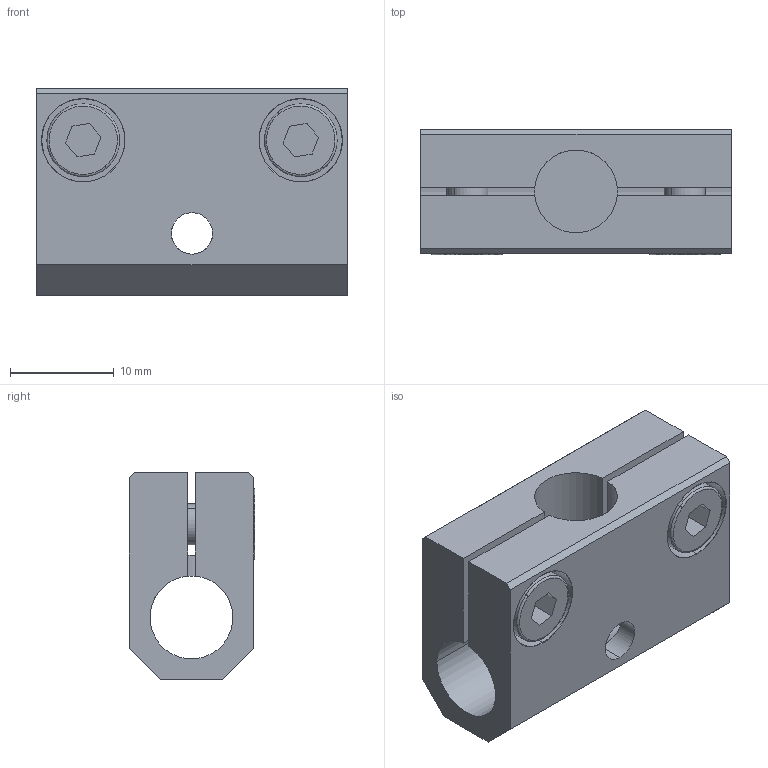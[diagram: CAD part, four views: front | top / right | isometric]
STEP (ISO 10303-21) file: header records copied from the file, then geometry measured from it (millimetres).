
FILE_DESCRIPTION (( 'STEP AP214' ), '1' );
FILE_NAME ('SMBF-0808.STEP', '2019-11-06T06:12:31', ( '微软用户' ), ( '微软中国' ), 'SwSTEP 2.0', 'SolidWorks 2016', '' );
FILE_SCHEMA (( 'AUTOMOTIVE_DESIGN' ));
Length unit declared in the file: millimetre
Products named in the file (1): SMBF-0808
Bounding box: 30 x 12.1 x 20 mm (x, y, z)
Volume: 4613.2 mm3; surface area: 4517.2 mm2
Topology: 5 solids, 5 shells, 473 faces, 1364 edges, 899 vertices
Faces by surface type: plane 422, cylinder 39, cone 8, bspline 4
Entity records: 21210 total; most frequent: CARTESIAN_POINT 3101, DIRECTION 2733, ORIENTED_EDGE 2728, EDGE_CURVE 1364, AXIS2_PLACEMENT_3D 919, VERTEX_POINT 899, VECTOR 895, LINE 895
